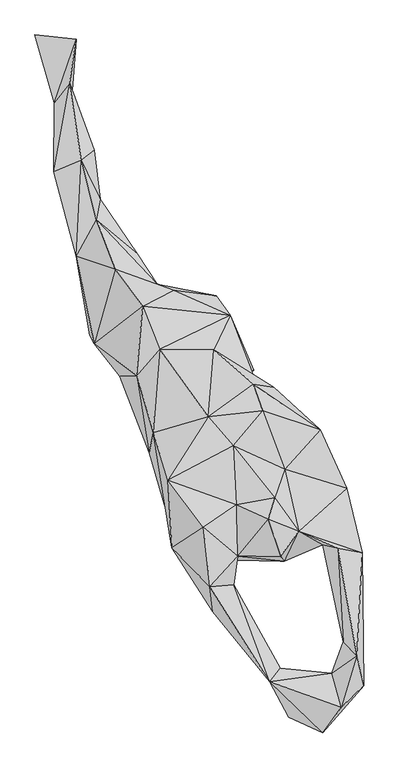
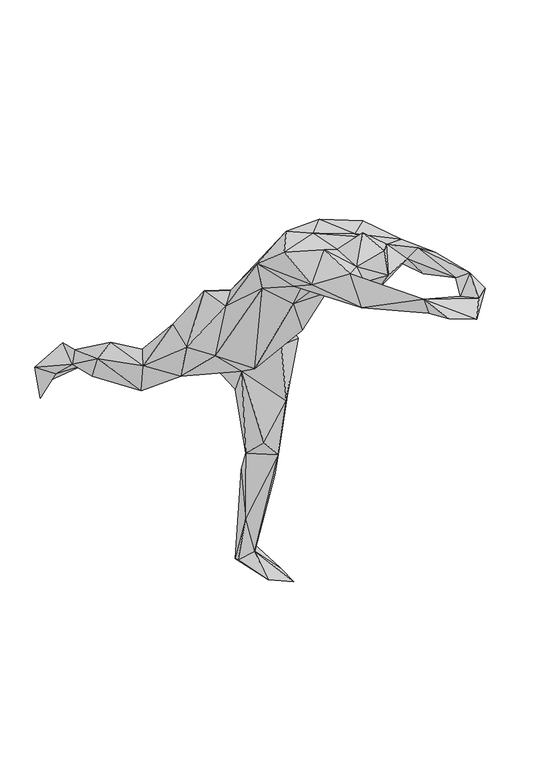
"""IFC4 building model written with IfcOpenShell, lengths in millimetres: geographic element geometry, Enscape AssetDefinition - Terrell Jumping : Enscape AssetDefinition - Terrell Jumping."""

from ifc_helpers import new_model, si_unit, origin, place, context, project, spatial, faceted_brep, source, transform, mapped, element, save


def geographic_element_7d3aa87a(model_context):
    return source(origin(), model_context, "Body", "Brep", [
        faceted_brep([(-23.6639995, -109.6159965, 1259.9840164), (16.144, -245.352, 1336.3289833), (-13.5019999, -61.9900003, 1325.8180618), (68.9949989, -218.911007, 1315.8919811), (150.4819989, -287.5620127, 1313.297987), (129.204005, -490.9200072, 1361.1329794), (30.5320006, -337.6840055, 1393.49401), (73.6310035, -143.4929967, 1185.3100061), (150.3330022, -174.3620038, 1250.6320477), (274.8059928, -155.4549932, 1271.8909979), (213.7770057, -114.6870032, 1163.4140015), (244.3699986, -272.9670107, 1243.6430454), (5.994, -10.8399997, 870.5670238), (147.1180022, -75.1809999, 1014.3090487), (311.2730086, -27.9319994, 1195.3949928), (355.7789922, -90.4660001, 1264.6850348), (279.8030078, -339.233011, 1290.825963), (408.7019861, -146.6179937, 1265.9050226), (299.9550104, -370.4069853, 1358.0839634), (178.6790043, -367.3050106, 1359.8189354), (392.3420012, -330.8179975, 1366.2610054), (188.5910034, -358.1359982, 1421.7820168), (179.0329963, -426.7530143, 1404.9789906), (291.4310098, -357.5640023, 1448.9550591), (334.5110118, -298.0029881, 1424.685955), (261.4029944, -269.3609893, 1478.0659676), (121.8089983, -431.0159981, 1461.5470171), (106.261, -288.5020077, 1476.4659405), (185.3789985, -234.7639948, 1418.4839725), (276.8299878, -217.2749937, 1424.3340492), (21.3539992, -175.398007, 1427.3469448), (177.5739938, -92.8239971, 1398.704052), (117.3880026, -24.0250006, 1384.796977), (300.902009, -149.2089927, 1387.8319263), (249.0469962, -9.3649998, 1378.3960342), (386.0040009, -55.3510003, 1352.8510332), (450.2699971, -194.4539994, 1340.6009674), (226.0069996, 54.4349998, 1276.7009735), (275.3970027, 46.4750007, 1172.6540327), (131.3109994, 136.5180016, 1075.0730038), (238.132, 45.0260006, 1071.5899467), (171.0059941, 219.7799981, 990.5329943), (1.336, 138.1379962, 1093.0210352), (182.0019931, 65.6839982, 933.0840111), (226.8050015, 87.7249986, 855.0080061), (124.9239966, 22.326, 902.6150107), (16.4550003, 90.6609967, 795.8660126), (149.5269984, 32.0149995, 668.0210233), (204.1320056, 105.483003, 687.5830293), (137.6049966, 266.5979862, 873.7980127), (73.4699965, 47.4999994, 519.2210078), (131.3859969, 53.4190014, 446.965009), (122.0159978, 223.8730043, 700.9729743), (137.9469931, 151.2310058, 522.8700042), (-4.532, 293.4800088, 839.7499919), (35.2279991, 279.6289921, 951.439023), (34.1719985, 163.3889973, 674.5690107), (-30.4419994, 228.7819982, 773.409009), (50.3459983, 124.2569983, 438.9689863), (-166.2629992, 171.946004, 790.8210158), (-184.1930002, 398.3550072, 602.7150154), (-93.7440023, 73.5279992, 907.1350098), (-198.3139962, 360.799998, 730.1790118), (-155.2429944, 150.872007, 915.7959819), (-53.3180013, 75.0539973, 1087.2709751), (-104.6959981, 330.1169872, 880.6080222), (-38.6970006, 240.9510016, 1044.4099903), (-149.9419957, 448.5020041, 724.1129875), (-51.6600013, 367.3020005, 760.5100274), (-186.1999929, 590.8259749, 679.0949702), (-140.2820051, 497.1269965, 624.0149736), (-234.5580012, 627.1340251, 538.3189917), (-155.7070017, 614.7059798, 608.4730029), (-251.7519891, 563.4909868, 652.3879766), (-214.1869962, 775.636971, 546.9040275), (-251.4980137, 728.6019921, 530.9559703), (-210.382998, 727.1729708, 513.8729811), (-198.277995, 881.3229799, 504.8689842), (-297.4039912, 891.3300037, 437.3829961), (-264.2759979, 814.9229884, 445.5749989), (-246.6610074, 885.3260279, 368.5570061), (-285.2019966, 878.3469796, 318.0330098), (62.3130016, 173.1770039, 340.9099877), (138.2610053, 168.0999994, 359.8969877), (44.4470011, 113.3849993, 190.7880008), (60.1230003, 81.2179968, 74.0799978), (148.3750045, 106.1419994, 327.8599977), (33.3050005, 163.7060046, 2.715), (10.7760001, 106.1090007, 41.0429984), (66.076003, 141.1309987, 87.3719975), (137.2179985, 46.3830009, 0.709), (133.682996, -44.0470017, 1.6280001), (59.2910014, -5.5559999, 12.321), (439.8320019, -354.6909988, 1305.5269718), (486.6609871, -349.9140143, 1371.333003), (487.1320128, -408.7339938, 1333.2409859), (441.1630034, -562.9749894, 1414.0859842), (427.8970063, -338.3809924, 1401.1670351), (473.6639857, -596.2070227, 1443.7350035), (490.8249974, -668.7089801, 1419.1030264), (413.9739871, -637.9759908, 1395.7669735), (436.5519881, -719.8680043, 1429.7629595), (392.7229941, -781.4859748, 1398.9239931), (290.1119888, -625.755012, 1408.9289904), (283.3060026, -661.7140174, 1389.8029327), (265.1979923, -659.2239738, 1449.0010738), (310.5050027, -743.8799739, 1407.4089527)], [[[0, 1, 2]], [[0, 3, 1]], [[1, 4, 5]], [[2, 1, 6]], [[6, 1, 5]], [[1, 3, 4]], [[7, 8, 3]], [[3, 0, 7]], [[3, 8, 4]], [[9, 8, 10]], [[9, 11, 8]], [[10, 8, 7]], [[4, 8, 11]], [[0, 12, 7]], [[7, 12, 13]], [[10, 7, 13]], [[13, 14, 10]], [[10, 15, 9]], [[14, 15, 10]], [[9, 16, 11]], [[9, 17, 16]], [[9, 15, 17]], [[4, 11, 16]], [[18, 19, 16]], [[16, 20, 18]], [[16, 17, 20]], [[16, 19, 4]], [[19, 5, 4]], [[21, 22, 19]], [[22, 5, 19]], [[21, 19, 18]], [[23, 21, 18]], [[18, 24, 23]], [[20, 24, 18]], [[25, 23, 24]], [[23, 25, 21]], [[21, 26, 22]], [[26, 21, 27]], [[25, 28, 21]], [[27, 21, 28]], [[29, 25, 24]], [[25, 29, 28]], [[28, 30, 27]], [[31, 30, 28]], [[29, 31, 28]], [[27, 6, 26]], [[27, 30, 6]], [[32, 2, 30]], [[30, 2, 6]], [[31, 32, 30]], [[31, 29, 33]], [[31, 33, 34]], [[34, 32, 31]], [[33, 29, 24]], [[34, 33, 35]], [[24, 36, 33]], [[33, 36, 35]], [[37, 32, 34]], [[34, 35, 37]], [[37, 38, 39]], [[32, 37, 39]], [[35, 38, 37]], [[38, 40, 39]], [[40, 38, 14]], [[38, 35, 14]], [[41, 42, 39]], [[41, 39, 40]], [[32, 39, 42]], [[41, 40, 43]], [[43, 40, 14]], [[43, 14, 13]], [[14, 35, 15]], [[44, 41, 43]], [[44, 43, 45]], [[45, 43, 13]], [[12, 45, 13]], [[46, 47, 45]], [[45, 12, 46]], [[47, 44, 45]], [[48, 44, 47]], [[49, 44, 48]], [[49, 41, 44]], [[47, 50, 51]], [[47, 46, 50]], [[48, 47, 51]], [[52, 48, 53]], [[49, 48, 52]], [[51, 53, 48]], [[49, 52, 54]], [[55, 49, 54]], [[55, 41, 49]], [[52, 56, 57]], [[57, 54, 52]], [[56, 52, 53]], [[56, 58, 46]], [[56, 53, 58]], [[57, 56, 46]], [[46, 59, 57]], [[60, 54, 57]], [[59, 60, 57]], [[12, 61, 46]], [[46, 61, 59]], [[46, 58, 50]], [[60, 59, 62]], [[63, 62, 59]], [[59, 61, 63]], [[63, 61, 64]], [[61, 12, 0]], [[64, 61, 0]], [[62, 63, 65]], [[66, 63, 64]], [[66, 65, 63]], [[66, 64, 42]], [[42, 64, 2]], [[64, 0, 2]], [[65, 66, 55]], [[42, 41, 66]], [[41, 55, 66]], [[67, 62, 65]], [[65, 54, 67]], [[54, 65, 55]], [[54, 68, 67]], [[69, 62, 67]], [[69, 67, 70]], [[70, 67, 68]], [[60, 70, 54]], [[54, 70, 68]], [[71, 72, 70]], [[72, 69, 70]], [[71, 70, 60]], [[69, 73, 62]], [[74, 73, 69]], [[72, 74, 69]], [[73, 60, 62]], [[73, 71, 60]], [[75, 71, 73]], [[76, 72, 71]], [[75, 76, 71]], [[76, 74, 72]], [[77, 75, 74]], [[77, 74, 76]], [[74, 75, 73]], [[77, 78, 75]], [[78, 79, 75]], [[79, 76, 75]], [[80, 77, 76]], [[80, 76, 79]], [[78, 77, 80]], [[78, 80, 81]], [[78, 81, 79]], [[80, 79, 81]], [[42, 2, 32]], [[51, 50, 58]], [[82, 58, 83]], [[82, 84, 58]], [[51, 58, 84]], [[83, 58, 53]], [[51, 84, 85]], [[86, 51, 85]], [[86, 53, 51]], [[87, 84, 82]], [[84, 88, 85]], [[84, 87, 88]], [[83, 89, 82]], [[82, 89, 87]], [[87, 90, 91]], [[89, 90, 87]], [[92, 87, 91]], [[88, 87, 92]], [[85, 88, 92]], [[91, 85, 92]], [[85, 91, 90]], [[89, 85, 90]], [[89, 86, 85]], [[83, 86, 89]], [[83, 53, 86]], [[15, 35, 17]], [[35, 36, 17]], [[17, 93, 20]], [[36, 93, 17]], [[24, 94, 36]], [[95, 93, 36]], [[95, 36, 94]], [[96, 93, 95]], [[20, 93, 96]], [[20, 96, 97]], [[97, 24, 20]], [[94, 24, 97]], [[94, 98, 99]], [[95, 94, 99]], [[94, 97, 98]], [[96, 95, 99]], [[99, 100, 96]], [[97, 96, 98]], [[100, 98, 96]], [[101, 98, 100]], [[99, 98, 101]], [[99, 101, 102]], [[100, 99, 102]], [[103, 100, 104]], [[100, 102, 104]], [[101, 100, 105]], [[105, 100, 103]], [[105, 102, 101]], [[105, 106, 102]], [[106, 104, 102]], [[5, 104, 105]], [[5, 103, 104]], [[105, 104, 106]], [[22, 105, 103]], [[5, 22, 103]], [[26, 5, 105]], [[105, 22, 26]], [[26, 6, 5]]]),
    ])


if __name__ == "__main__":
    model = new_model("IFC4")
    model_context = context("Model", 3, world=origin())
    ifc_project = project(units=[si_unit("LENGTHUNIT", "METRE", prefix="MILLI")], contexts=[model_context])
    site = spatial("IfcSite", under=ifc_project)
    building = spatial("IfcBuilding", under=site)
    placement = place(None, origin())
    geographic_element_shape = geographic_element_7d3aa87a(model_context)
    element("IfcGeographicElement", 1, ObjectType="Enscape AssetDefinition - Terrell Jumping : Enscape AssetDefinition - Terrell Jumping", at=placement, inside=building, context=model_context, shape_type="MappedRepresentation", body=[
        mapped(geographic_element_shape, transform((0.0, 0.0, 0.0), x_axis=(1.0, 0.0, 0.0), y_axis=(0.0, 1.0, 0.0), z_axis=(0.0, 0.0, 1.0))),
    ])
    save(model, "model.ifc")
